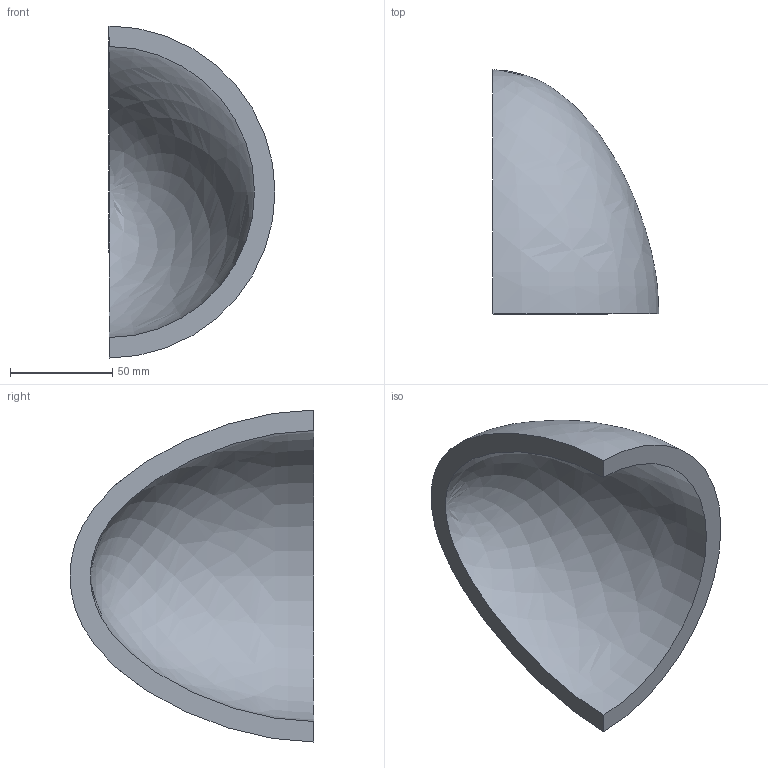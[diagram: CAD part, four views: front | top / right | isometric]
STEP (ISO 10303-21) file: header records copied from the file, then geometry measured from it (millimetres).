
FILE_DESCRIPTION(('CATIA V5 STEP Exchange'),'2;1');
FILE_NAME('C:\_Andres\UNIVERSIDAD\IQS\ASIGNATURAS\DAO\EXF\EXF-16172c\2inicio\Marra-Lopez_Llovet_Ej10_v19.stp','2017-03-05T22:31:12+00:00',('none'),('none'),'CATIA Version 5-6 Release 2014 SP1 HF18','CATIA V5 STEP AP203','none');
FILE_SCHEMA(('CONFIG_CONTROL_DESIGN'));
Length unit declared in the file: millimetre
Products named in the file (1): Marra-Lopez_Llovet_Ej10_v19
Bounding box: 81 x 119 x 162 mm (x, y, z)
Volume: 236217.3 mm3; surface area: 52713.8 mm2
Topology: 1 solids, 1 shells, 4 faces, 10 edges, 6 vertices
Faces by surface type: revolution 2, plane 2
Entity records: 242 total; most frequent: CARTESIAN_POINT 120, ORIENTED_EDGE 16, DIRECTION 10, EDGE_CURVE 8, B_SPLINE_CURVE_WITH_KNOTS 6, VERTEX_POINT 6, AXIS2_PLACEMENT_3D 5, ADVANCED_FACE 4
